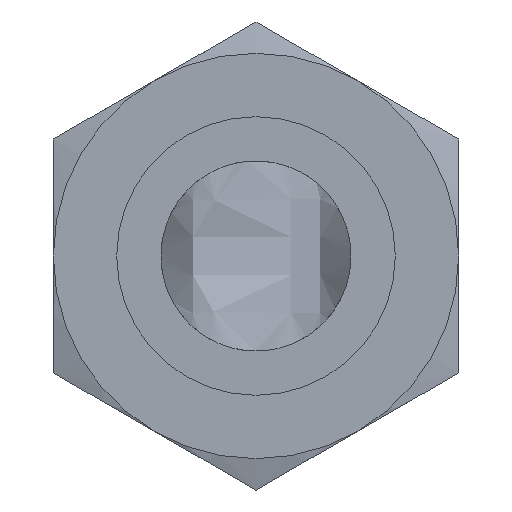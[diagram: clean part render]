
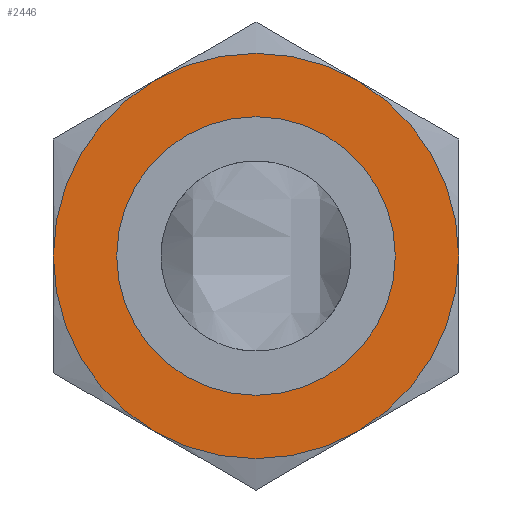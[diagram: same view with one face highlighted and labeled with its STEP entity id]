
A CAD part, front view. The second image highlights one B-rep face of the part: STEP entity #2446.
In plain terms, the highlighted planar face has unit normal (0, -1, 0) as drawn and (0, 0, -1) by its records, which use the part's own axes.
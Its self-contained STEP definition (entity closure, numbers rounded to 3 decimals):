
#1797=CARTESIAN_POINT('',(0.,0.,0.));
#1798=DIRECTION('',(0.,0.,-1.));
#1799=DIRECTION('',(1.,0.,0.));
#1800=AXIS2_PLACEMENT_3D('',#1797,#1798,#1799);
#1805=CARTESIAN_POINT('',(0.,0.,0.));
#1806=DIRECTION('',(0.,0.,-1.));
#1807=DIRECTION('',(0.5,0.866,0.));
#1808=AXIS2_PLACEMENT_3D('',#1805,#1806,#1807);
#1813=CARTESIAN_POINT('',(0.,0.,0.));
#1814=DIRECTION('',(0.,0.,-1.));
#1815=DIRECTION('',(-1.,0.,0.));
#1816=AXIS2_PLACEMENT_3D('',#1813,#1814,#1815);
#1821=CARTESIAN_POINT('',(0.,0.,0.));
#1822=DIRECTION('',(0.,0.,-1.));
#1823=DIRECTION('',(-0.5,-0.866,0.));
#1824=AXIS2_PLACEMENT_3D('',#1821,#1822,#1823);
#1829=CARTESIAN_POINT('',(0.,0.,0.));
#1830=DIRECTION('',(0.,0.,-1.));
#1831=DIRECTION('',(0.,-1.,0.));
#1832=AXIS2_PLACEMENT_3D('',#1829,#1830,#1831);
#1837=CARTESIAN_POINT('',(0.,0.,0.));
#1838=DIRECTION('',(0.,0.,-1.));
#1839=DIRECTION('',(0.,1.,0.));
#1840=AXIS2_PLACEMENT_3D('',#1837,#1838,#1839);
#1845=CARTESIAN_POINT('',(0.,0.,0.));
#1846=DIRECTION('',(0.,0.,-1.));
#1847=DIRECTION('',(0.5,-0.866,0.));
#1848=AXIS2_PLACEMENT_3D('',#1845,#1846,#1847);
#1908=CARTESIAN_POINT('',(0.,0.,0.));
#1909=DIRECTION('',(0.,0.,-1.));
#1910=DIRECTION('',(-0.5,0.866,0.));
#1911=AXIS2_PLACEMENT_3D('',#1908,#1909,#1910);
#2361=CARTESIAN_POINT('',(-4.,-6.928,0.));
#2362=CARTESIAN_POINT('',(-8.,0.,0.));
#2363=VERTEX_POINT('',#2361);
#2364=VERTEX_POINT('',#2362);
#2365=CARTESIAN_POINT('',(-4.,6.928,0.));
#2366=VERTEX_POINT('',#2365);
#2367=CARTESIAN_POINT('',(4.,6.928,0.));
#2368=CARTESIAN_POINT('',(8.,0.,0.));
#2369=VERTEX_POINT('',#2367);
#2370=VERTEX_POINT('',#2368);
#2371=CARTESIAN_POINT('',(4.,-6.928,0.));
#2372=VERTEX_POINT('',#2371);
#2397=CARTESIAN_POINT('',(0.,-5.,0.));
#2398=CARTESIAN_POINT('',(0.,5.,0.));
#2399=VERTEX_POINT('',#2397);
#2400=VERTEX_POINT('',#2398);
#2421=CARTESIAN_POINT('',(0.,0.,0.));
#2422=DIRECTION('',(0.,0.,1.));
#2423=DIRECTION('',(1.,0.,0.));
#2424=AXIS2_PLACEMENT_3D('',#2421,#2422,#2423);
#2425=PLANE('',#2424);
#2427=ORIENTED_EDGE('',*,*,#2426,.F.);
#2429=ORIENTED_EDGE('',*,*,#2428,.F.);
#2431=ORIENTED_EDGE('',*,*,#2430,.F.);
#2433=ORIENTED_EDGE('',*,*,#2432,.F.);
#2435=ORIENTED_EDGE('',*,*,#2434,.F.);
#2437=ORIENTED_EDGE('',*,*,#2436,.F.);
#2438=EDGE_LOOP('',(#2427,#2429,#2431,#2433,#2435,#2437));
#2439=FACE_OUTER_BOUND('',#2438,.F.);
#2441=ORIENTED_EDGE('',*,*,#2440,.T.);
#2443=ORIENTED_EDGE('',*,*,#2442,.T.);
#2444=EDGE_LOOP('',(#2441,#2443));
#2445=FACE_BOUND('',#2444,.F.);
#1801=CIRCLE('',#1800,8.);
#1809=CIRCLE('',#1808,8.);
#1817=CIRCLE('',#1816,8.);
#1825=CIRCLE('',#1824,8.);
#1833=CIRCLE('',#1832,5.);
#1841=CIRCLE('',#1840,5.);
#1849=CIRCLE('',#1848,8.);
#1912=CIRCLE('',#1911,8.);
#2426=EDGE_CURVE('',#2372,#2363,#1849,.T.);
#2428=EDGE_CURVE('',#2370,#2372,#1801,.T.);
#2430=EDGE_CURVE('',#2369,#2370,#1809,.T.);
#2432=EDGE_CURVE('',#2366,#2369,#1912,.T.);
#2434=EDGE_CURVE('',#2364,#2366,#1817,.T.);
#2436=EDGE_CURVE('',#2363,#2364,#1825,.T.);
#2440=EDGE_CURVE('',#2399,#2400,#1833,.T.);
#2442=EDGE_CURVE('',#2400,#2399,#1841,.T.);
#2446=ADVANCED_FACE('',(#2439,#2445),#2425,.F.);
